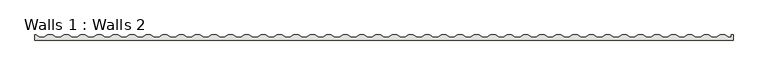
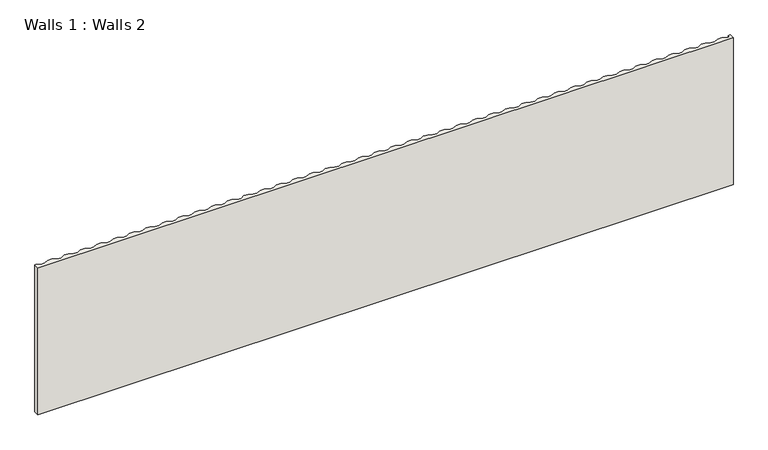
"""IFC4 building model written with IfcOpenShell, lengths in millimetres: wall geometry, Walls 1 : Walls 2."""

from ifc_helpers import new_model, si_unit, frame, origin, place, context, project, spatial, polyline, outline, extrude, source, transform, mapped, element, save


def walls_1_walls_2_2b18bc49(model_context):
    return source(origin(), model_context, "Body", "SweptSolid", [
        extrude(outline(polyline([(-4042.1108023, -622.7772175), (-4042.1108023, -535.7772175), (-4029.8963726, -535.7772175), (-3961.8963707, -571.7772185), (-3891.8963644, -571.7772185), (-3823.8963658, -535.7772175), (-3751.8963651, -535.7772175), (-3683.8963632, -571.7772185), (-3613.8963569, -571.7772185), (-3545.8963651, -535.7772175), (-3473.8963651, -535.7772175), (-3405.8963632, -571.7772185), (-3335.8963569, -571.7772185), (-3267.8963651, -535.7772175), (-3195.8963651, -535.7772175), (-3127.8963632, -571.7772185), (-3057.8963569, -571.7772185), (-2989.8963651, -535.7772175), (-2917.8963651, -535.7772175), (-2849.8963632, -571.7772185), (-2779.8963569, -571.7772185), (-2711.8963651, -535.7772175), (-2639.8963651, -535.7772175), (-2571.8963632, -571.7772185), (-2501.8963569, -571.7772185), (-2433.8963651, -535.7772175), (-2361.8963651, -535.7772175), (-2293.8963632, -571.7772185), (-2223.8963569, -571.7772185), (-2155.8963651, -535.7772175), (-2083.8963651, -535.7772175), (-2015.8963632, -571.7772185), (-1945.8963569, -571.7772185), (-1877.8963651, -535.7772175), (-1805.8963651, -535.7772175), (-1737.8963632, -571.7772185), (-1667.8963569, -571.7772185), (-1599.8963651, -535.7772175), (-1527.8963651, -535.7772175), (-1459.8963632, -571.7772185), (-1389.8963569, -571.7772185), (-1321.8963651, -535.7772175), (-1249.8963651, -535.7772175), (-1181.8963632, -571.7772185), (-1111.8963569, -571.7772185), (-1043.8963651, -535.7772175), (-971.8963651, -535.7772175), (-903.8963632, -571.7772185), (-833.8963569, -571.7772185), (-765.8963651, -535.7772175), (-693.8963651, -535.7772175), (-625.8963632, -571.7772185), (-555.8963569, -571.7772185), (-487.8963651, -535.7772175), (-415.8963651, -535.7772175), (-347.8963632, -571.7772185), (-277.8963569, -571.7772185), (-209.8963651, -535.7772175), (-137.8963651, -535.7772175), (-69.8963632, -571.7772185), (0.1036431, -571.7772185), (68.1036349, -535.7772175), (140.1036349, -535.7772175), (208.1036368, -571.7772185), (278.1036431, -571.7772185), (346.1036349, -535.7772175), (418.1036349, -535.7772175), (486.1036368, -571.7772185), (556.1036431, -571.7772185), (624.1036349, -535.7772175), (696.1036349, -535.7772175), (764.1036368, -571.7772185), (834.1036431, -571.7772185), (902.1036349, -535.7772175), (974.1036349, -535.7772175), (1042.1036368, -571.7772185), (1112.1036431, -571.7772185), (1180.1036349, -535.7772175), (1252.1036349, -535.7772175), (1320.1036368, -571.7772185), (1390.1036431, -571.7772185), (1458.1036349, -535.7772175), (1530.1036349, -535.7772175), (1598.1036368, -571.7772185), (1668.1036431, -571.7772185), (1736.1036349, -535.7772175), (1808.1036349, -535.7772175), (1876.1036368, -571.7772185), (1946.1036431, -571.7772185), (2014.1036349, -535.7772175), (2086.1036349, -535.7772175), (2154.1036368, -571.7772185), (2224.1036431, -571.7772185), (2292.1036349, -535.7772175), (2364.1036349, -535.7772175), (2432.1036368, -571.7772185), (2502.1036431, -571.7772185), (2570.1036349, -535.7772175), (2642.1036349, -535.7772175), (2710.1036368, -571.7772185), (2780.1036431, -571.7772185), (2848.1036349, -535.7772175), (2920.1036349, -535.7772175), (2988.1036368, -571.7772185), (3058.1036431, -571.7772185), (3126.1036349, -535.7772175), (3198.1036349, -535.7772175), (3266.1036368, -571.7772185), (3336.1036431, -571.7772185), (3404.1036349, -535.7772175), (3476.1036349, -535.7772175), (3544.1036368, -571.7772185), (3614.1036431, -571.7772185), (3682.1036349, -535.7772175), (3754.1036349, -535.7772175), (3822.1036368, -571.7772185), (3892.1036431, -571.7772185), (3960.1036349, -535.7772175), (4032.1036349, -535.7772175), (4100.1036368, -571.7772185), (4170.1036431, -571.7772185), (4238.1036349, -535.7772175), (4310.1036349, -535.7772175), (4378.1036368, -571.7772185), (4448.1036431, -571.7772185), (4516.1036349, -535.7772175), (4588.1036349, -535.7772175), (4656.1036368, -571.7772185), (4726.1036431, -571.7772185), (4794.1036349, -535.7772175), (4866.1036349, -535.7772175), (4934.1036368, -571.7772185), (5004.1036431, -571.7772185), (5072.1036349, -535.7772175), (5144.1036349, -535.7772175), (5212.1036368, -571.7772185), (5282.1036431, -571.7772185), (5350.1036349, -535.7772175), (5422.1036349, -535.7772175), (5490.1036368, -571.7772185), (5560.1036431, -571.7772185), (5628.1036349, -535.7772175), (5700.1036349, -535.7772175), (5768.1036368, -571.7772185), (5838.1036431, -571.7772185), (5906.1036349, -535.7772175), (5978.1036349, -535.7772175), (6046.1036368, -571.7772185), (6116.1036431, -571.7772185), (6184.1036349, -535.7772175), (6256.1036349, -535.7772175), (6324.1036368, -571.7772185), (6394.1036431, -571.7772185), (6462.1036349, -535.7772175), (6534.1036349, -535.7772175), (6602.1036368, -571.7772185), (6672.1036431, -571.7772185), (6740.1036349, -535.7772175), (6812.1036349, -535.7772175), (6880.1036368, -571.7772185), (6950.1036431, -571.7772185), (7018.1036349, -535.7772175), (7090.1036349, -535.7772175), (7158.1036368, -571.7772185), (7228.1036431, -571.7772185), (7296.1036349, -535.7772175), (7368.1036349, -535.7772175), (7436.1036368, -571.7772185), (7506.1036431, -571.7772185), (7574.1036349, -535.7772175), (7646.1036349, -535.7772175), (7714.1036368, -571.7772185), (7753.0930791, -571.7772185), (7753.0930791, -535.7772175), (7787.8891893, -535.7772175), (7787.8891893, -622.7772175), (-4042.1108023, -622.7772175)])), frame((0.0, 0.0, 411.0), z_axis=(0.0, 0.0, 1.0), x_axis=(1.0, 0.0, 0.0)), (0.0, 0.0, 1.0), 2645.9999942),
    ])


if __name__ == "__main__":
    model = new_model("IFC4")
    model_context = context("Model", 3, world=origin())
    ifc_project = project(units=[si_unit("LENGTHUNIT", "METRE", prefix="MILLI")], contexts=[model_context])
    site = spatial("IfcSite", under=ifc_project)
    building = spatial("IfcBuilding", under=site)
    placement = place(None, origin())
    walls_1_walls_2_shape = walls_1_walls_2_2b18bc49(model_context)
    element("IfcWall", 1, ObjectType="Walls 1 : Walls 2", at=placement, inside=building, context=model_context, shape_type="MappedRepresentation", body=[
        mapped(walls_1_walls_2_shape, transform((0.0, 0.0, 0.0), x_axis=(1.0, 0.0, 0.0), y_axis=(0.0, 1.0, 0.0), z_axis=(0.0, 0.0, 1.0))),
    ])
    save(model, "model.ifc")
